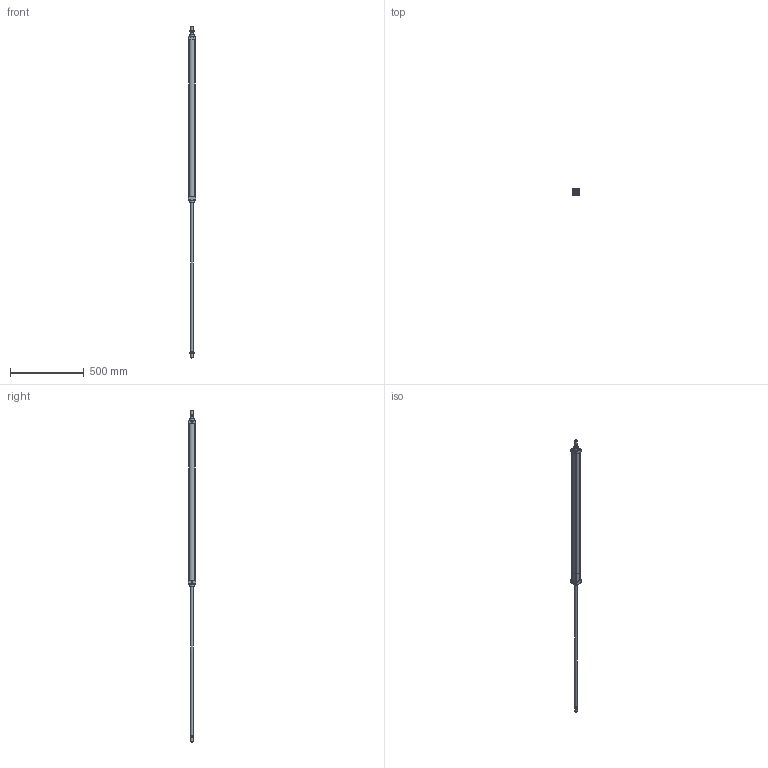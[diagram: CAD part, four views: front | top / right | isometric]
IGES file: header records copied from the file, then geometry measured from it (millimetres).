
Global section: file name: 1303_040_1000_02A; native system: Autodesk Inventor 2014; preprocessor: unknown; author: A. Manieri; date: 20161123.144128; units: millimetre
Bounding box: 52 x 52 x 2250 mm (x, y, z)
Volume: 1228109.4 mm3; surface area: 534659.3 mm2
Topology: 10 solids, 10 shells, 189 faces, 471 edges, 314 vertices
Faces by surface type: bspline 189
